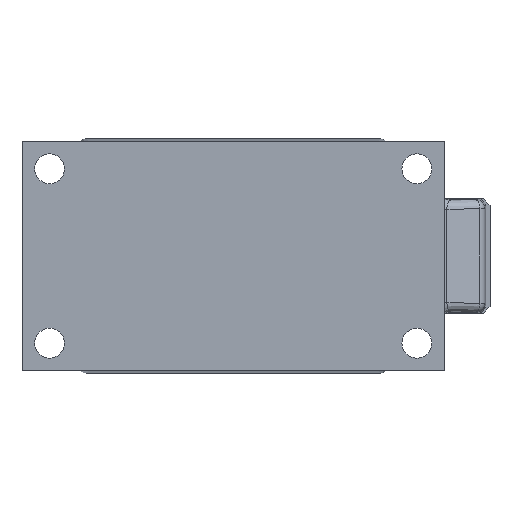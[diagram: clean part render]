
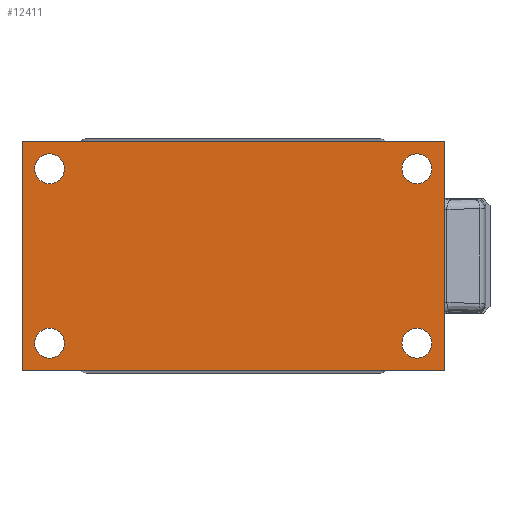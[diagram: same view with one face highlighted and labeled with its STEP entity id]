
A CAD part, front view. The second image highlights one B-rep face of the part: STEP entity #12411.
In plain terms, the highlighted planar face has unit normal (0, -1, 0).
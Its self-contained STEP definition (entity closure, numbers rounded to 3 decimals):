
#140 = DIRECTION ( 'NONE',  ( 0., 0., -1. ) ) ;
#405 = EDGE_CURVE ( 'NONE', #12220, #19777, #15103, .T. ) ;
#563 = VERTEX_POINT ( 'NONE', #10649 ) ;
#776 = LINE ( 'NONE', #12239, #14540 ) ;
#901 = ORIENTED_EDGE ( 'NONE', *, *, #405, .F. ) ;
#1177 = CARTESIAN_POINT ( 'NONE',  ( 40., -10., 19. ) ) ;
#1412 = EDGE_CURVE ( 'NONE', #17441, #15821, #24710, .T. ) ;
#1761 = CIRCLE ( 'NONE', #17312, 3.25 ) ;
#1820 = EDGE_CURVE ( 'NONE', #15821, #17441, #6312, .T. ) ;
#2339 = DIRECTION ( 'NONE',  ( 0., 0., -1. ) ) ;
#2723 = DIRECTION ( 'NONE',  ( 0., 0., 1. ) ) ;
#3050 = EDGE_LOOP ( 'NONE', ( #20743, #11178, #901, #3302 ) ) ;
#3199 = EDGE_CURVE ( 'NONE', #563, #16848, #13868, .T. ) ;
#3302 = ORIENTED_EDGE ( 'NONE', *, *, #8211, .F. ) ;
#3341 = FACE_BOUND ( 'NONE', #18216, .T. ) ;
#3357 = CARTESIAN_POINT ( 'NONE',  ( 40., -10., -22.25 ) ) ;
#3732 = DIRECTION ( 'NONE',  ( 0., 0., 1. ) ) ;
#3919 = CARTESIAN_POINT ( 'NONE',  ( -40., -10., 19. ) ) ;
#3960 = ORIENTED_EDGE ( 'NONE', *, *, #1820, .T. ) ;
#4020 = EDGE_CURVE ( 'NONE', #5200, #21702, #23412, .T. ) ;
#4152 = ORIENTED_EDGE ( 'NONE', *, *, #24334, .T. ) ;
#4424 = AXIS2_PLACEMENT_3D ( 'NONE', #10744, #12603, #6810 ) ;
#4580 = DIRECTION ( 'NONE',  ( 0., 1., 0. ) ) ;
#5200 = VERTEX_POINT ( 'NONE', #18933 ) ;
#5232 = CIRCLE ( 'NONE', #15236, 3.25 ) ;
#5779 = EDGE_LOOP ( 'NONE', ( #14834, #12305 ) ) ;
#5896 = CARTESIAN_POINT ( 'NONE',  ( 40., -10., -19. ) ) ;
#6312 = CIRCLE ( 'NONE', #8750, 3.25 ) ;
#6724 = FACE_BOUND ( 'NONE', #5779, .T. ) ;
#6810 = DIRECTION ( 'NONE',  ( 0., 0., -1. ) ) ;
#6834 = EDGE_CURVE ( 'NONE', #23586, #16192, #9971, .T. ) ;
#6929 = CARTESIAN_POINT ( 'NONE',  ( 46., -10., 25. ) ) ;
#7061 = VERTEX_POINT ( 'NONE', #19943 ) ;
#7130 = AXIS2_PLACEMENT_3D ( 'NONE', #20053, #24127, #8332 ) ;
#7132 = CARTESIAN_POINT ( 'NONE',  ( -40., -10., 19. ) ) ;
#7334 = CARTESIAN_POINT ( 'NONE',  ( -40., -10., -19. ) ) ;
#7493 = CIRCLE ( 'NONE', #24422, 3.25 ) ;
#7513 = ORIENTED_EDGE ( 'NONE', *, *, #1412, .T. ) ;
#7650 = EDGE_LOOP ( 'NONE', ( #4152, #19861 ) ) ;
#7960 = FACE_OUTER_BOUND ( 'NONE', #3050, .T. ) ;
#8208 = DIRECTION ( 'NONE',  ( 0., 0., 1. ) ) ;
#8211 = EDGE_CURVE ( 'NONE', #16848, #12220, #24069, .T. ) ;
#8332 = DIRECTION ( 'NONE',  ( 0., 0., 1. ) ) ;
#8406 = AXIS2_PLACEMENT_3D ( 'NONE', #8471, #4580, #8208 ) ;
#8471 = CARTESIAN_POINT ( 'NONE',  ( -40., -10., -19. ) ) ;
#8514 = CARTESIAN_POINT ( 'NONE',  ( 46., -10., 25. ) ) ;
#8750 = AXIS2_PLACEMENT_3D ( 'NONE', #5896, #17872, #10090 ) ;
#8889 = FACE_BOUND ( 'NONE', #22055, .T. ) ;
#9117 = DIRECTION ( 'NONE',  ( 0., 1., 0. ) ) ;
#9333 = CARTESIAN_POINT ( 'NONE',  ( 40., -10., -15.75 ) ) ;
#9391 = DIRECTION ( 'NONE',  ( 0., 0., 1. ) ) ;
#9971 = CIRCLE ( 'NONE', #13789, 3.25 ) ;
#10090 = DIRECTION ( 'NONE',  ( 0., 0., -1. ) ) ;
#10404 = EDGE_CURVE ( 'NONE', #21702, #5200, #1761, .T. ) ;
#10544 = CARTESIAN_POINT ( 'NONE',  ( -46., -10., 25. ) ) ;
#10649 = CARTESIAN_POINT ( 'NONE',  ( -46., -10., -25. ) ) ;
#10744 = CARTESIAN_POINT ( 'NONE',  ( 40., -10., -19. ) ) ;
#10812 = EDGE_CURVE ( 'NONE', #19777, #563, #776, .T. ) ;
#10882 = DIRECTION ( 'NONE',  ( 1., 0., 0. ) ) ;
#11041 = DIRECTION ( 'NONE',  ( 0., 1., 0. ) ) ;
#11054 = DIRECTION ( 'NONE',  ( 0., 0., -1. ) ) ;
#11178 = ORIENTED_EDGE ( 'NONE', *, *, #10812, .F. ) ;
#12113 = CARTESIAN_POINT ( 'NONE',  ( 46., -10., 25. ) ) ;
#12220 = VERTEX_POINT ( 'NONE', #6929 ) ;
#12239 = CARTESIAN_POINT ( 'NONE',  ( 46., -10., -25. ) ) ;
#12305 = ORIENTED_EDGE ( 'NONE', *, *, #18853, .T. ) ;
#12411 = ADVANCED_FACE ( 'NONE', ( #23857, #3341, #8889, #6724, #7960 ), #15114, .F. ) ;
#12603 = DIRECTION ( 'NONE',  ( 0., 1., 0. ) ) ;
#12653 = EDGE_CURVE ( 'NONE', #7061, #21409, #15586, .T. ) ;
#12978 = DIRECTION ( 'NONE',  ( 0., 0., 1. ) ) ;
#13064 = CARTESIAN_POINT ( 'NONE',  ( 40., -10., 15.75 ) ) ;
#13145 = CARTESIAN_POINT ( 'NONE',  ( 0., -10., 0. ) ) ;
#13298 = DIRECTION ( 'NONE',  ( 0., 1., 0. ) ) ;
#13789 = AXIS2_PLACEMENT_3D ( 'NONE', #3919, #15813, #140 ) ;
#13868 = LINE ( 'NONE', #10544, #16612 ) ;
#14540 = VECTOR ( 'NONE', #18235, 1000. ) ;
#14565 = CARTESIAN_POINT ( 'NONE',  ( -40., -10., 15.75 ) ) ;
#14834 = ORIENTED_EDGE ( 'NONE', *, *, #12653, .T. ) ;
#15059 = AXIS2_PLACEMENT_3D ( 'NONE', #13145, #17260, #3732 ) ;
#15103 = LINE ( 'NONE', #12113, #24912 ) ;
#15114 = PLANE ( 'NONE',  #15059 ) ;
#15236 = AXIS2_PLACEMENT_3D ( 'NONE', #7334, #13298, #9391 ) ;
#15586 = CIRCLE ( 'NONE', #8406, 3.25 ) ;
#15771 = ORIENTED_EDGE ( 'NONE', *, *, #10404, .T. ) ;
#15813 = DIRECTION ( 'NONE',  ( 0., 1., 0. ) ) ;
#15821 = VERTEX_POINT ( 'NONE', #9333 ) ;
#16192 = VERTEX_POINT ( 'NONE', #23227 ) ;
#16391 = VECTOR ( 'NONE', #10882, 1000. ) ;
#16612 = VECTOR ( 'NONE', #2723, 1000. ) ;
#16848 = VERTEX_POINT ( 'NONE', #21624 ) ;
#17260 = DIRECTION ( 'NONE',  ( 0., 1., 0. ) ) ;
#17312 = AXIS2_PLACEMENT_3D ( 'NONE', #1177, #11041, #12978 ) ;
#17441 = VERTEX_POINT ( 'NONE', #3357 ) ;
#17872 = DIRECTION ( 'NONE',  ( 0., 1., 0. ) ) ;
#18216 = EDGE_LOOP ( 'NONE', ( #24253, #15771 ) ) ;
#18235 = DIRECTION ( 'NONE',  ( -1., 0., 0. ) ) ;
#18853 = EDGE_CURVE ( 'NONE', #21409, #7061, #5232, .T. ) ;
#18933 = CARTESIAN_POINT ( 'NONE',  ( 40., -10., 22.25 ) ) ;
#19777 = VERTEX_POINT ( 'NONE', #22019 ) ;
#19861 = ORIENTED_EDGE ( 'NONE', *, *, #6834, .T. ) ;
#19943 = CARTESIAN_POINT ( 'NONE',  ( -40., -10., -15.75 ) ) ;
#20053 = CARTESIAN_POINT ( 'NONE',  ( 40., -10., 19. ) ) ;
#20743 = ORIENTED_EDGE ( 'NONE', *, *, #3199, .F. ) ;
#21409 = VERTEX_POINT ( 'NONE', #25171 ) ;
#21624 = CARTESIAN_POINT ( 'NONE',  ( -46., -10., 25. ) ) ;
#21702 = VERTEX_POINT ( 'NONE', #13064 ) ;
#22019 = CARTESIAN_POINT ( 'NONE',  ( 46., -10., -25. ) ) ;
#22055 = EDGE_LOOP ( 'NONE', ( #3960, #7513 ) ) ;
#23227 = CARTESIAN_POINT ( 'NONE',  ( -40., -10., 22.25 ) ) ;
#23412 = CIRCLE ( 'NONE', #7130, 3.25 ) ;
#23586 = VERTEX_POINT ( 'NONE', #14565 ) ;
#23857 = FACE_BOUND ( 'NONE', #7650, .T. ) ;
#24069 = LINE ( 'NONE', #8514, #16391 ) ;
#24127 = DIRECTION ( 'NONE',  ( 0., 1., 0. ) ) ;
#24253 = ORIENTED_EDGE ( 'NONE', *, *, #4020, .T. ) ;
#24334 = EDGE_CURVE ( 'NONE', #16192, #23586, #7493, .T. ) ;
#24422 = AXIS2_PLACEMENT_3D ( 'NONE', #7132, #9117, #11054 ) ;
#24710 = CIRCLE ( 'NONE', #4424, 3.25 ) ;
#24912 = VECTOR ( 'NONE', #2339, 1000. ) ;
#25171 = CARTESIAN_POINT ( 'NONE',  ( -40., -10., -22.25 ) ) ;
